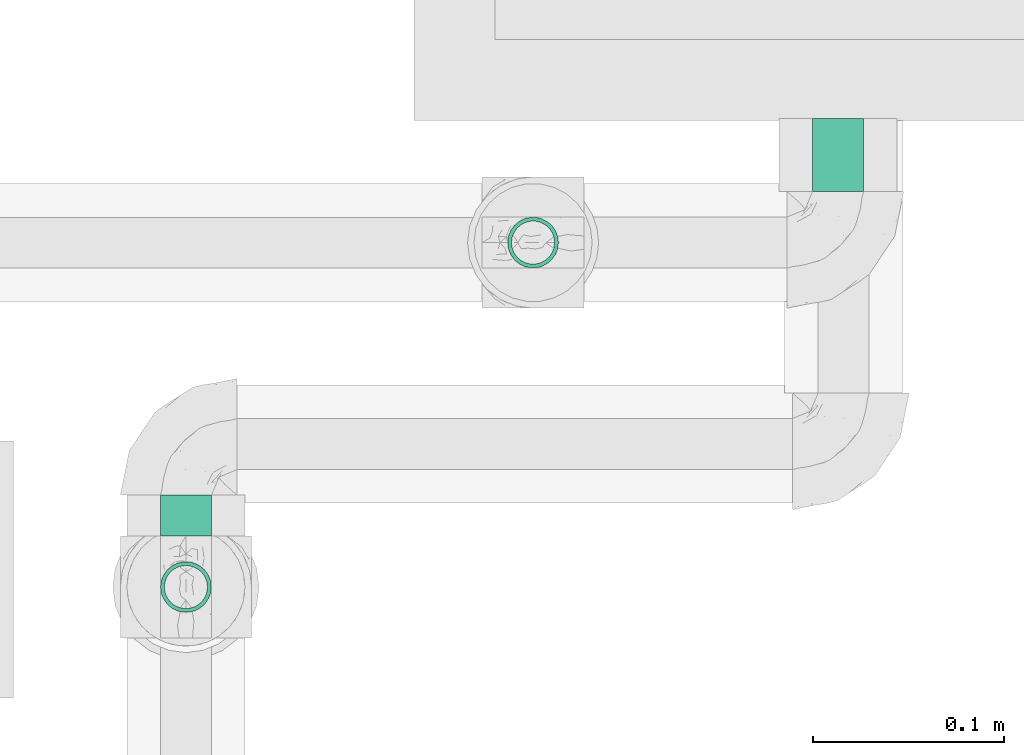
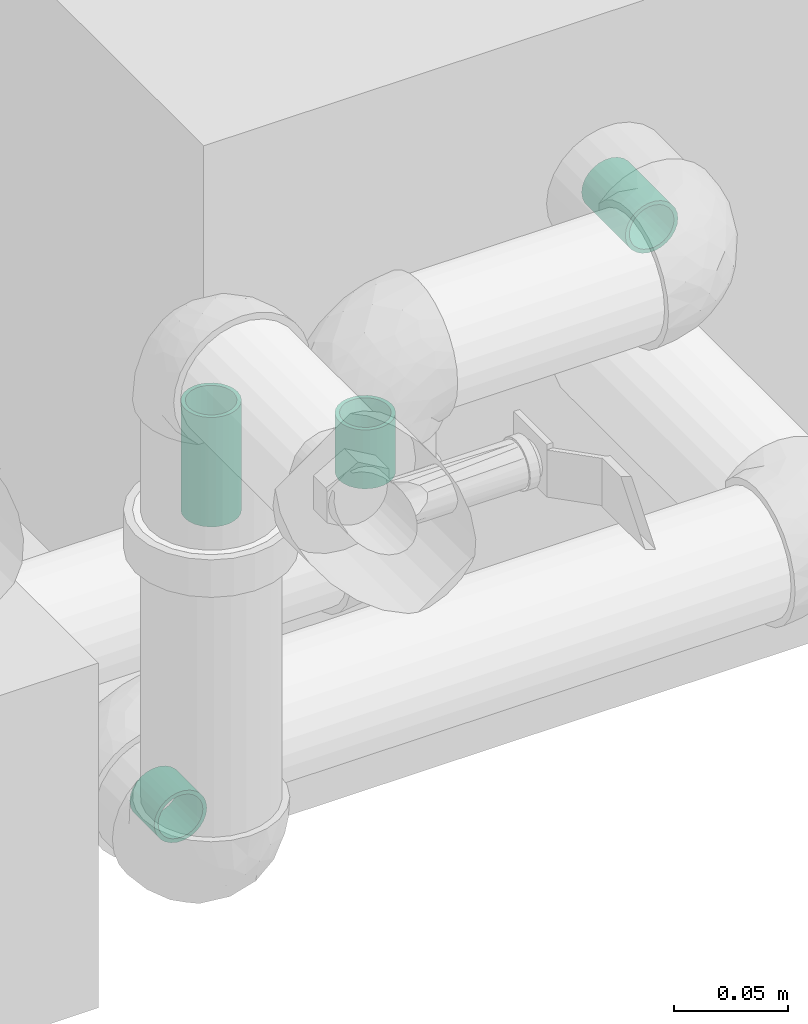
# One storey, part 8 of 13: 4 flow segments.
"""IFC2X3 building model written with IfcOpenShell, lengths in millimetres."""

from ifc_helpers import new_model, entity, si_unit, converted_unit, derived_unit, direction, frame, origin_with_axes, origin_2d_with_axis, place, context, subcontext, project, spatial, hollow_circle, extrude, source, transform, mapped, type_object, element, save


model = new_model("IFC2X3")

# Units and contexts
model_context = context("Model", 3, precision=0.01, world=frame((0.0, 4.29681676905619e-09, 0.0)), true_north=direction((4.01073788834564e-13, 1.0)))
plan_context = context("Plan", 3, precision=0.01, world=frame((0.0, 4.29681676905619e-09, 0.0)), true_north=direction((4.01073788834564e-13, 1.0)))
body_context = subcontext(model_context, "Body", "Model", "MODEL_VIEW")
ifc_project = project(units=[converted_unit("PLANEANGLEUNIT", "DEGREE", entity("IfcPositiveLengthMeasure", 0.0174532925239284), si_unit("PLANEANGLEUNIT", "RADIAN"), dimensions=[0, 0, 0, 0, 0, 0, 0]), si_unit("AREAUNIT", "SQUARE_METRE"), si_unit("LENGTHUNIT", "METRE", prefix="MILLI"), si_unit("MASSUNIT", "GRAM", prefix="KILO"), si_unit("POWERUNIT", "WATT"), si_unit("PRESSUREUNIT", "PASCAL"), si_unit("FORCEUNIT", "NEWTON", prefix="KILO"), si_unit("ELECTRICVOLTAGEUNIT", "VOLT"), si_unit("ELECTRICCURRENTUNIT", "AMPERE"), si_unit("THERMODYNAMICTEMPERATUREUNIT", "DEGREE_CELSIUS"), si_unit("TIMEUNIT", "SECOND"), si_unit("VOLUMEUNIT", "CUBIC_METRE"), derived_unit("LINEARVELOCITYUNIT", [(si_unit("LENGTHUNIT", "METRE"), 1), (si_unit("TIMEUNIT", "SECOND"), -1)]), derived_unit("VOLUMETRICFLOWRATEUNIT", [(si_unit("VOLUMEUNIT", "CUBIC_METRE"), 1), (si_unit("TIMEUNIT", "SECOND"), -1)]), derived_unit("THERMALTRANSMITTANCEUNIT", [(si_unit("POWERUNIT", "WATT"), 1), (si_unit("THERMODYNAMICTEMPERATUREUNIT", "KELVIN"), -1), (si_unit("AREAUNIT", "SQUARE_METRE"), -1)]), derived_unit("SOUNDPRESSUREUNIT", [(si_unit("PRESSUREUNIT", "PASCAL"), 1)])], contexts=[model_context, plan_context])

# Site, building, storey
site_placement = place(None, frame((0.0, -4.29681676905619e-09, 0.0), z_axis=(0.0, 0.0, 1.0), x_axis=(1.0, 0.0, 0.0)))
site = spatial("IfcSite", under=ifc_project, at=site_placement, Name="ENGM", CompositionType="ELEMENT")
building_placement = place(site_placement, frame((0.0, 4.29681676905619e-09, 0.0), z_axis=(0.0, 0.0, 1.0), x_axis=(1.0, 0.0, 0.0)))
building = spatial("IfcBuilding", under=site, at=building_placement, Name="TI", CompositionType="ELEMENT")
storey_placement = place(building_placement, frame((0.0, 0.0, 210900.0), z_axis=(0.0, 0.0, 1.0), x_axis=(1.0, 0.0, 0.0)))
storey = spatial("IfcBuildingStorey", under=building, at=storey_placement, Name="Nivå F", CompositionType="ELEMENT", Elevation=210900.0)

# Flow segments
pipe_segment_type = type_object("IfcPipeSegmentType", Name="Stålrør normaltykke", PredefinedType="RIGIDSEGMENT")
shared_shape_1 = source(origin_with_axes(), body_context, "Body", "SweptSolid", [
    extrude(hollow_circle(Radius=13.3, WallThickness=2.0, at=origin_2d_with_axis()), frame((0.0, 0.0, 0.0), z_axis=(1.0, 0.0, 0.0), x_axis=(0.0, 1.0, 0.0)), (0.0, 0.0, 1.0), 58.4),
])
flow_segment_1_placement = place(storey_placement, frame((610257.26164, 691419.90405, 2713.20000000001), z_axis=(0.0, 1.0, 0.0), x_axis=(0.0, 0.0, -1.0)))
element("IfcFlowSegment", 1, at=flow_segment_1_placement, inside=storey, type_object=pipe_segment_type, Name="Stålrør normaltykke", context=body_context, shape_type="MappedRepresentation", body=[
    mapped(shared_shape_1, transform((0.0, 0.0, 0.0), scale=1.0)),
])
shared_shape_2 = source(origin_with_axes(), body_context, "Body", "SweptSolid", [
    extrude(hollow_circle(Radius=13.3, WallThickness=2.0, at=origin_2d_with_axis()), frame((0.0, 0.0, 0.0), z_axis=(1.0, 0.0, 0.0), x_axis=(0.0, 1.0, 0.0)), (0.0, 0.0, 1.0), 21.4),
])
flow_segment_2_placement = place(storey_placement, frame((610257.26164, 691446.70405, 2474.79999999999), z_axis=(0.0, 0.0, 1.0), x_axis=(0.0, 1.0, 0.0)))
element("IfcFlowSegment", 2, at=flow_segment_2_placement, inside=storey, type_object=pipe_segment_type, Name="Stålrør normaltykke", context=body_context, shape_type="MappedRepresentation", body=[
    mapped(shared_shape_2, transform((0.0, 0.0, 0.0), scale=1.0)),
])
shared_shape_3 = source(origin_with_axes(), body_context, "Body", "SweptSolid", [
    extrude(hollow_circle(Radius=13.3, WallThickness=2.0, at=origin_2d_with_axis()), frame((0.0, 0.0, 0.0), z_axis=(1.0, 0.0, 0.0), x_axis=(0.0, 1.0, 0.0)), (0.0, 0.0, 1.0), 31.4),
])
flow_segment_3_placement = place(storey_placement, frame((610439.38538, 691600.60738, 2501.79999999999), z_axis=(0.0, -1.0, 0.0), x_axis=(0.0, 0.0, 1.0)))
element("IfcFlowSegment", 3, at=flow_segment_3_placement, inside=storey, type_object=pipe_segment_type, Name="Stålrør normaltykke", context=body_context, shape_type="MappedRepresentation", body=[
    mapped(shared_shape_3, transform((0.0, 0.0, 0.0), scale=1.0)),
])
shared_shape_4 = source(origin_with_axes(), body_context, "Body", "SweptSolid", [
    extrude(hollow_circle(Radius=13.3, WallThickness=2.0, at=origin_2d_with_axis()), frame((0.0, 0.0, 0.0), z_axis=(1.0, 0.0, 0.0), x_axis=(0.0, 1.0, 0.0)), (0.0, 0.0, 1.0), 38.2),
])
flow_segment_4_placement = place(storey_placement, frame((610599.38538, 691627.40738, 2560.0), z_axis=(0.0, 0.0, 1.0), x_axis=(0.0, 1.0, 0.0)))
element("IfcFlowSegment", 4, at=flow_segment_4_placement, inside=storey, type_object=pipe_segment_type, Name="Stålrør normaltykke", context=body_context, shape_type="MappedRepresentation", body=[
    mapped(shared_shape_4, transform((0.0, 0.0, 0.0), scale=1.0, scale2=1.0, scale3=1.0, uniform=False)),
])

save(model, "model.ifc")
